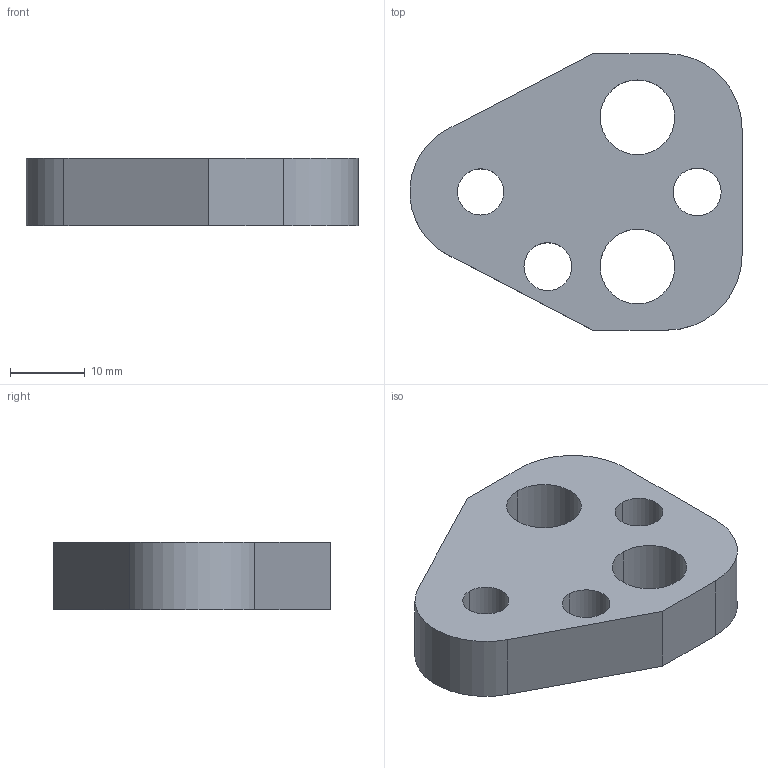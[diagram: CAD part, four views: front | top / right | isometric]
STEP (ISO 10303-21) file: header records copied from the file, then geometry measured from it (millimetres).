
FILE_DESCRIPTION(/* description */ (''),/* implementation_level */ '2;1');
FILE_NAME(/* name */ '3d_bpc10-9_03426_r00.stp',/* time_stamp */ '2011-01-10T14:17:11+09:00',/* author */ ('MISUMI'),/* organization */ (''),/* preprocessor_version */ 'ST-DEVELOPER v11',/* originating_system */ 'UGS - NX 5.0',/* authorisation */ '');
FILE_SCHEMA (('CONFIG_CONTROL_DESIGN'));
Length unit declared in the file: millimetre
Products named in the file (1): 3d_bpc10-9_03426_r00
Bounding box: 44.47 x 37 x 9 mm (x, y, z)
Volume: 9260.7 mm3; surface area: 4356.2 mm2
Topology: 1 solids, 1 shells, 20 faces, 54 edges, 36 vertices
Faces by surface type: cylinder 13, plane 7
Entity records: 750 total; most frequent: DIRECTION 122, CARTESIAN_POINT 111, ORIENTED_EDGE 108, EDGE_CURVE 54, AXIS2_PLACEMENT_3D 47, VERTEX_POINT 36, EDGE_LOOP 30, LINE 28
